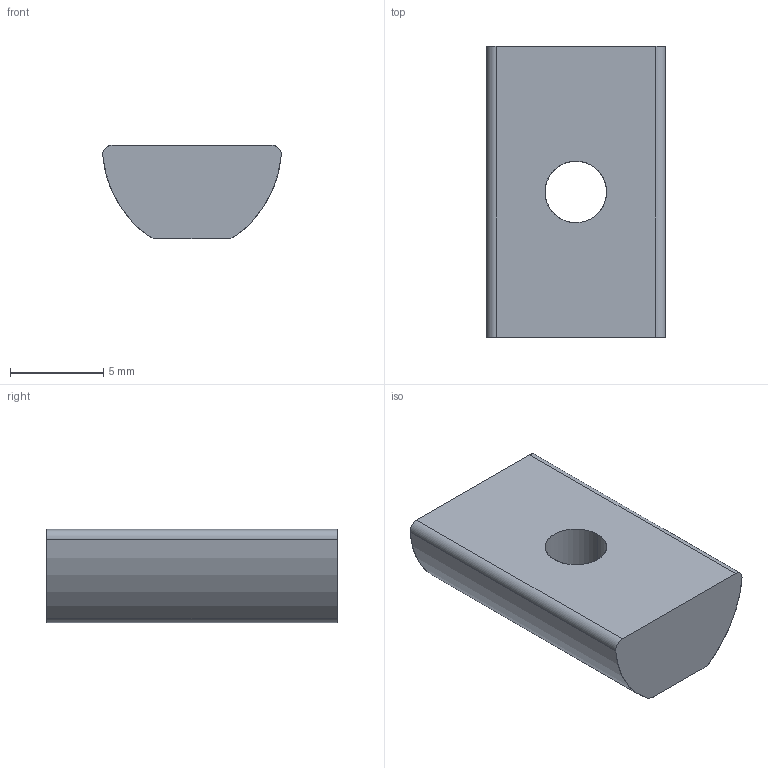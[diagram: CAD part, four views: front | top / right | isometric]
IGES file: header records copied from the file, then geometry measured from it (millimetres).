
Start section: SolidWorks IGES file using analytic representation for surfaces
Global section: file name: C:\Users\admin\Desktop\IGES\J3M4F.igs; native system: SolidWorks 2014; preprocessor: SolidWorks 2014; author: admin_pc; date: 170524.165450; units: millimetre
Bounding box: 9.58 x 15.6 x 5 mm (x, y, z)
Surface area: 508 mm2 (no closed solid volume)
Topology: 0 solids, 0 shells, 12 faces, 148 edges, 148 vertices
Faces by surface type: revolution 8, bspline 4
